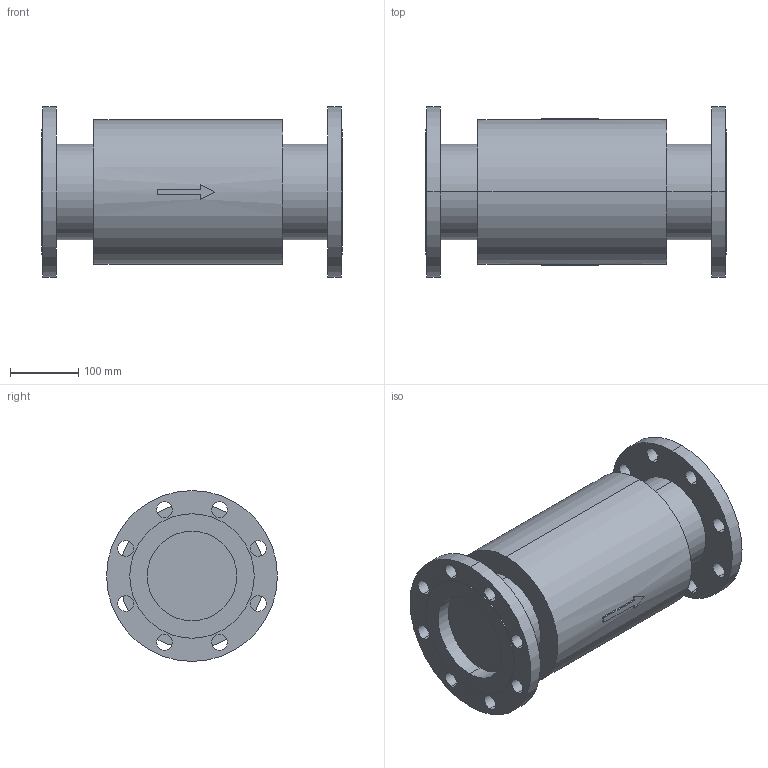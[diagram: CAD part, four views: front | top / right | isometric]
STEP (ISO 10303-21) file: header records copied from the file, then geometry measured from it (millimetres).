
FILE_DESCRIPTION( (''), '2;1');
FILE_NAME ('PC1027.10420.EB-1J　125A_19459.stp','2025-07-29T12:55:53',(''),(''),'spGate 20.6.3 (****-****-****-****)','','');
FILE_SCHEMA (('AUTOMOTIVE_DESIGN'));
Length unit declared in the file: millimetre
Bounding box: 440 x 250 x 250 mm (x, y, z)
Volume: 12952883.9 mm3; surface area: 504225.8 mm2
Topology: 1 solids, 1 shells, 76 faces, 194 edges, 130 vertices
Faces by surface type: cylinder 50, plane 26
Entity records: 3917 total; most frequent: CARTESIAN_POINT 458, DIRECTION 400, ORIENTED_EDGE 388, COLOUR_RGB 271, PRESENTATION_STYLE_ASSIGNMENT 271, STYLED_ITEM 271, EDGE_CURVE 194, DRAUGHTING_PRE_DEFINED_CURVE_FONT 194
